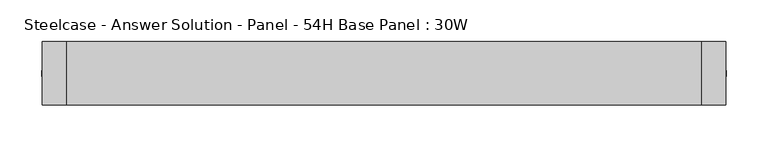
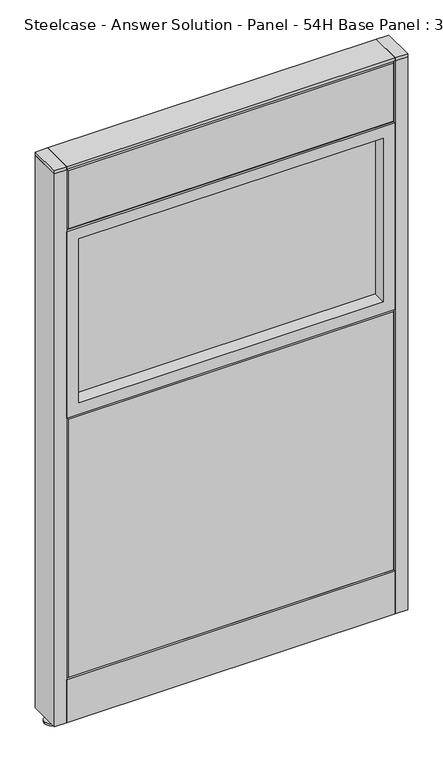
"""IFC4 building model written with IfcOpenShell, lengths in millimetres: furniture geometry, Steelcase - Answer Solution - Panel - 54H Base Panel : 30W."""

from ifc_helpers import new_model, si_unit, point, frame, frame_2d, origin, place, context, project, spatial, polyline, circle_curve, trimmed, segment, composite_curve, outline, extrude, faceted_brep, source, transform, mapped, element, save


def steelcase_answer_solution_panel_54h_base_panel_30w_1098b8fe(model_context):
    return source(origin(), model_context, "Body", "SolidModel", [
        extrude(outline(composite_curve([segment(trimmed(circle_curve(frame_2d((395.224, 0.0320214)), 5.08), [point((400.304, 0.0320214))], [point((390.144, 0.0320214))], False, "CARTESIAN"), True, "CONTINUOUS"), segment(trimmed(circle_curve(frame_2d((395.224, 0.0320214)), 5.08), [point((390.144, 0.0320214))], [point((400.304, 0.0320214))], False, "CARTESIAN"), True, "CONTINUOUS")], self_intersect=False)), frame((0.0, 0.0, 5.0799671), z_axis=(0.0, 0.0, 1.0), x_axis=(1.0, 0.0, 0.0)), (0.0, 0.0, 1.0), 10.414),
        extrude(outline(composite_curve([segment(trimmed(circle_curve(frame_2d((395.224, 0.0320214)), 15.24), [point((410.464, 0.0320214))], [point((379.984, 0.0320214))], False, "CARTESIAN"), True, "CONTINUOUS"), segment(trimmed(circle_curve(frame_2d((395.224, 0.0320214)), 15.24), [point((379.984, 0.0320214))], [point((410.464, 0.0320214))], False, "CARTESIAN"), True, "CONTINUOUS")], self_intersect=False)), frame((0.0, 0.0, -3.29e-05), z_axis=(0.0, 0.0, 1.0), x_axis=(1.0, 0.0, 0.0)), (0.0, 0.0, 1.0), 5.08),
        extrude(outline(polyline([(409.575, 38.1320408), (409.575, -38.0679592), (381.0, -38.0679592), (381.0, 38.1320408), (409.575, 38.1320408)])), frame((0.0, 0.0, 1370.6348), z_axis=(0.0, 0.0, 1.0), x_axis=(1.0, 0.0, 0.0)), (0.0, 0.0, 1.0), 7.3151671),
        extrude(outline(polyline([(409.575, 38.1320408), (409.575, -38.0679592), (381.0, -38.0679592), (381.0, 38.1320408), (409.575, 38.1320408)])), frame((0.0, 0.0, 15.4939671), z_axis=(0.0, 0.0, 1.0), x_axis=(1.0, 0.0, 0.0)), (0.0, 0.0, 1.0), 1355.1408329),
        extrude(outline(composite_curve([segment(trimmed(circle_curve(frame_2d((-395.224, 0.0320214)), 5.08), [point((-400.304, 0.0320214))], [point((-390.144, 0.0320214))], False, "CARTESIAN"), True, "CONTINUOUS"), segment(trimmed(circle_curve(frame_2d((-395.224, 0.0320214)), 5.08), [point((-390.144, 0.0320214))], [point((-400.304, 0.0320214))], False, "CARTESIAN"), True, "CONTINUOUS")], self_intersect=False)), frame((0.0, 0.0, 5.0799671), z_axis=(0.0, 0.0, 1.0), x_axis=(1.0, 0.0, 0.0)), (0.0, 0.0, 1.0), 10.414),
        extrude(outline(composite_curve([segment(trimmed(circle_curve(frame_2d((-395.224, 0.0320214)), 15.24), [point((-410.464, 0.0320214))], [point((-379.984, 0.0320214))], False, "CARTESIAN"), True, "CONTINUOUS"), segment(trimmed(circle_curve(frame_2d((-395.224, 0.0320214)), 15.24), [point((-379.984, 0.0320214))], [point((-410.464, 0.0320214))], False, "CARTESIAN"), True, "CONTINUOUS")], self_intersect=False)), frame((0.0, 0.0, -3.29e-05), z_axis=(0.0, 0.0, 1.0), x_axis=(1.0, 0.0, 0.0)), (0.0, 0.0, 1.0), 5.08),
        extrude(outline(polyline([(-409.575, 38.1320408), (-381.0, 38.1320408), (-381.0, -38.0679592), (-409.575, -38.0679592), (-409.575, 38.1320408)])), frame((0.0, 0.0, 1370.6348), z_axis=(0.0, 0.0, 1.0), x_axis=(1.0, 0.0, 0.0)), (0.0, 0.0, 1.0), 7.3151671),
        extrude(outline(polyline([(-409.575, 38.1320408), (-381.0, 38.1320408), (-381.0, -38.0679592), (-409.575, -38.0679592), (-409.575, 38.1320408)])), frame((0.0, 0.0, 15.4939671), z_axis=(0.0, 0.0, 1.0), x_axis=(1.0, 0.0, 0.0)), (0.0, 0.0, 1.0), 1355.1408329),
        extrude(outline(polyline([(-353.06, 6.346049), (353.06, 6.346049), (353.06, -6.353951), (-353.06, -6.353951), (-353.06, 6.346049)])), frame((0.0, 0.0, 789.94), z_axis=(0.0, 0.0, 1.0), x_axis=(1.0, 0.0, 0.0)), (0.0, 0.0, 1.0), 401.32),
        extrude(outline(polyline([(1219.2, -381.0), (762.0, -381.0), (762.0, 381.0), (1219.2, 381.0), (1219.2, -381.0)]), holes=[polyline([(1191.26, -353.06), (1191.26, 353.06), (789.94, 353.06), (789.94, -353.06), (1191.26, -353.06)])]), frame((0.0, -38.103951, 0.0), z_axis=(0.0, 1.0, 0.0), x_axis=(0.0, 0.0, 1.0)), (0.0, 0.0, 1.0), 76.2),
        faceted_brep([(-376.174, 38.1635011, 1366.774), (376.174, 38.1635011, 1366.774), (376.174, 38.1635011, 1224.026), (-376.174, 38.1635011, 1224.026), (-381.0, 33.3375011, 1371.6), (-381.0, 33.3375011, 1219.2), (381.0, 33.3375011, 1219.2), (381.0, 33.3375011, 1371.6)], [[[0, 1, 2, 3]], [[4, 5, 6, 7]], [[4, 7, 1, 0]], [[7, 6, 2, 1]], [[6, 5, 3, 2]], [[5, 4, 0, 3]]]),
        faceted_brep([(-376.174, 38.1635011, 757.174), (376.174, 38.1635011, 757.174), (376.174, 38.1635011, 125.476), (-376.174, 38.1635011, 125.476), (-381.0, 33.3375011, 762.0), (-381.0, 33.3375011, 120.65), (381.0, 33.3375011, 120.65), (381.0, 33.3375011, 762.0)], [[[0, 1, 2, 3]], [[4, 5, 6, 7]], [[4, 7, 1, 0]], [[7, 6, 2, 1]], [[6, 5, 3, 2]], [[5, 4, 0, 3]]]),
        extrude(outline(polyline([(353.06, -6.346049), (-353.06, -6.346049), (-353.06, 6.353951), (353.06, 6.353951), (353.06, -6.346049)])), frame((0.0, 0.0, 789.94), z_axis=(0.0, 0.0, 1.0), x_axis=(1.0, 0.0, 0.0)), (0.0, 0.0, 1.0), 401.32),
        extrude(outline(polyline([(1219.2, 381.0), (1219.2, -381.0), (762.0, -381.0), (762.0, 381.0), (1219.2, 381.0)]), holes=[polyline([(1191.26, 353.06), (789.94, 353.06), (789.94, -353.06), (1191.26, -353.06), (1191.26, 353.06)])]), frame((0.0, -38.096049, 0.0), z_axis=(0.0, 1.0, 0.0), x_axis=(0.0, 0.0, 1.0)), (0.0, 0.0, 1.0), 76.2),
        faceted_brep([(376.174, -38.1635011, 1366.774), (-376.174, -38.1635011, 1366.774), (-376.174, -38.1635011, 1224.026), (376.174, -38.1635011, 1224.026), (381.0, -33.3375011, 1371.6), (381.0, -33.3375011, 1219.2), (-381.0, -33.3375011, 1219.2), (-381.0, -33.3375011, 1371.6)], [[[0, 1, 2, 3]], [[4, 5, 6, 7]], [[4, 7, 1, 0]], [[7, 6, 2, 1]], [[6, 5, 3, 2]], [[5, 4, 0, 3]]]),
        faceted_brep([(376.174, -38.1635011, 757.174), (-376.174, -38.1635011, 757.174), (-376.174, -38.1635011, 125.476), (376.174, -38.1635011, 125.476), (381.0, -33.3375011, 762.0), (381.0, -33.3375011, 120.65), (-381.0, -33.3375011, 120.65), (-381.0, -33.3375011, 762.0)], [[[0, 1, 2, 3]], [[4, 5, 6, 7]], [[4, 7, 1, 0]], [[7, 6, 2, 1]], [[6, 5, 3, 2]], [[5, 4, 0, 3]]]),
        extrude(outline(polyline([(381.0, 38.1000194), (381.0, -38.1000194), (-381.0, -38.1000194), (-381.0, 38.1000194), (381.0, 38.1000194)])), frame((0.0, 0.0, 1371.6), z_axis=(0.0, 0.0, 1.0), x_axis=(1.0, 0.0, 0.0)), (0.0, 0.0, 1.0), 6.35),
        extrude(outline(polyline([(25.4000011, 119.8575157), (25.4000011, 120.65), (38.1000194, 120.65), (38.1000194, 15.494), (37.3075215, 15.494), (37.3075215, 119.8575157), (25.4000011, 119.8575157)])), frame((-381.0, 0.0, 0.0), z_axis=(1.0, 0.0, 0.0), x_axis=(0.0, 1.0, 0.0)), (0.0, 0.0, 1.0), 762.0),
        extrude(outline(polyline([(-25.4000011, 119.8575157), (-37.3075215, 119.8575157), (-37.3075215, 15.494), (-38.1000194, 15.494), (-38.1000194, 120.65), (-25.4000011, 120.65), (-25.4000011, 119.8575157)])), frame((-381.0, 0.0, 0.0), z_axis=(1.0, 0.0, 0.0), x_axis=(0.0, 1.0, 0.0)), (0.0, 0.0, 1.0), 762.0),
    ])


if __name__ == "__main__":
    model = new_model("IFC4")
    model_context = context("Model", 3, world=origin())
    ifc_project = project(units=[si_unit("LENGTHUNIT", "METRE", prefix="MILLI")], contexts=[model_context])
    site = spatial("IfcSite", under=ifc_project)
    building = spatial("IfcBuilding", under=site)
    placement = place(None, origin())
    steelcase_answer_solution_panel_54h_base_panel_30w_shape = steelcase_answer_solution_panel_54h_base_panel_30w_1098b8fe(model_context)
    element("IfcFurniture", 1, ObjectType="Steelcase - Answer Solution - Panel - 54H Base Panel : 30W", at=placement, inside=building, context=model_context, shape_type="MappedRepresentation", body=[
        mapped(steelcase_answer_solution_panel_54h_base_panel_30w_shape, transform((0.0, 0.0, 0.0), x_axis=(1.0, 0.0, 0.0), y_axis=(0.0, 1.0, 0.0), z_axis=(0.0, 0.0, 1.0))),
    ])
    save(model, "model.ifc")
